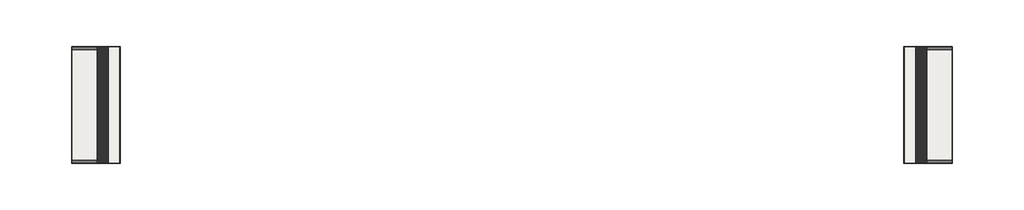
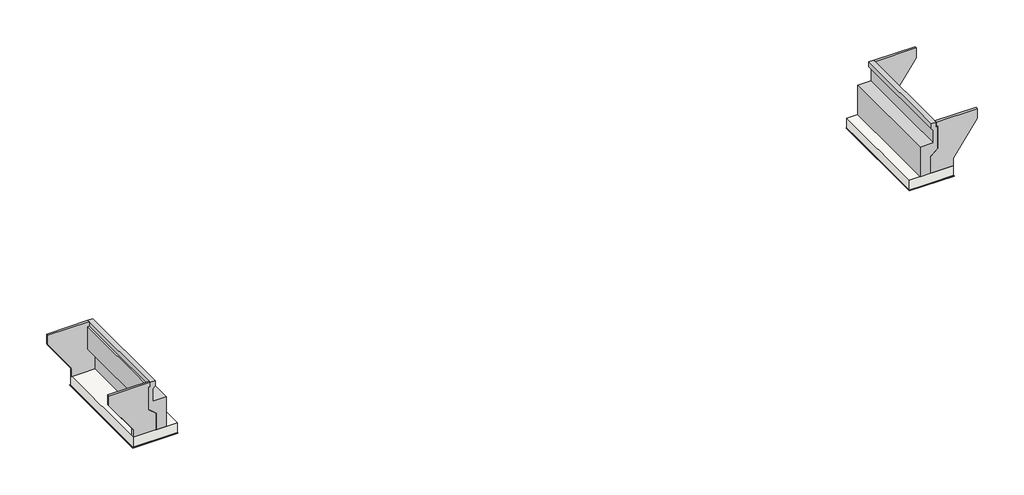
# One storey: 4 slabs, 2 columns, 2 proxies.
"""IFC4 building model written with IfcOpenShell, lengths in millimetres."""

from ifc_helpers import new_model, si_unit, frame, origin, place, context, project, spatial, polyline, outline, extrude, transform, mapped, element, save
from components import generic_models_ccaa3bc6, generic_models_ce1fa7ab, column_4557d2d2

model = new_model("IFC4")

# Units and contexts
model_context = context("Model", 3, world=origin())
ifc_project = project(units=[si_unit("LENGTHUNIT", "METRE", prefix="MILLI")], contexts=[model_context])

# Site, building, storey
site = spatial("IfcSite", under=ifc_project)
building = spatial("IfcBuilding", under=site)
storey = spatial("IfcBuildingStorey", under=building, Name="교대기초레벨", Elevation=5000.0)

# Proxies
placement = place(None, origin())
generic_models_shape = generic_models_ccaa3bc6(model_context)
element("IfcBuildingElementProxy", 1, Name="날개벽 : 날개벽", ObjectType="날개벽 : 날개벽", at=placement, inside=storey, context=model_context, shape_type="MappedRepresentation", body=[
    mapped(generic_models_shape, transform((0.0, 0.0, 0.0), x_axis=(1.0, 0.0, 0.0), y_axis=(0.0, 1.0, 0.0), z_axis=(0.0, 0.0, 1.0))),
])
generic_models_2_shape = generic_models_ce1fa7ab(model_context)
element("IfcBuildingElementProxy", 2, Name="날개벽 2 : 날개벽 2", ObjectType="날개벽 2 : 날개벽 2", at=placement, inside=storey, context=model_context, shape_type="MappedRepresentation", body=[
    mapped(generic_models_2_shape, transform((0.0, 0.0, 0.0), x_axis=(1.0, 0.0, 0.0), y_axis=(0.0, 1.0, 0.0), z_axis=(0.0, 0.0, 1.0))),
])

# Columns
column_shape = column_4557d2d2(model_context)
element("IfcColumn", 3, ObjectType="교대 본체 : 교대 본체", at=placement, inside=storey, context=model_context, shape_type="MappedRepresentation", body=[
    mapped(column_shape, transform((-10580.366559, 448.8136521, 0.0), x_axis=(0.0, -1.0, 0.0), y_axis=(1.0, 0.0, 0.0), z_axis=(0.0, 0.0, 1.0))),
])
element("IfcColumn", 4, ObjectType="교대 본체 : 교대 본체", at=placement, inside=storey, context=model_context, shape_type="MappedRepresentation", body=[
    mapped(column_shape, transform((137019.633441, 448.8136521, 0.0), x_axis=(0.0, 1.0, 0.0), y_axis=(-1.0, 0.0, 0.0), z_axis=(0.0, 0.0, 1.0))),
])

# Slabs
element("IfcSlab", 5, ObjectType="교대 기초 : 교대 기초", at=placement, inside=storey, context=model_context, shape_type="SweptSolid", body=[
    extrude(outline(polyline([(-7530.366559, 10898.8136521), (-7530.366559, -10001.1863479), (-16030.366559, -10001.1863479), (-16030.366559, 10898.8136521), (-7530.366559, 10898.8136521)])), frame((0.0, 0.0, 3000.0), z_axis=(0.0, 0.0, 1.0), x_axis=(1.0, 0.0, 0.0)), (0.0, 0.0, 1.0), 2000.0),
])
element("IfcSlab", 6, ObjectType="교대 버림콘크리트 : 교대 버림콘크리트", at=placement, inside=storey, context=model_context, shape_type="SweptSolid", body=[
    extrude(outline(polyline([(-7430.366559, 10998.8136521), (-7430.366559, -10101.1863479), (-16130.366559, -10101.1863479), (-16130.366559, 10998.8136521), (-7430.366559, 10998.8136521)])), frame((0.0, 0.0, 2900.0), z_axis=(0.0, 0.0, 1.0), x_axis=(1.0, 0.0, 0.0)), (0.0, 0.0, 1.0), 100.0),
])
element("IfcSlab", 7, ObjectType="교대 기초 : 교대 기초", at=placement, inside=storey, context=model_context, shape_type="SweptSolid", body=[
    extrude(outline(polyline([(133969.633441, -10001.1863479), (133969.633441, 10898.8136521), (142469.633441, 10898.8136521), (142469.633441, -10001.1863479), (133969.633441, -10001.1863479)])), frame((0.0, 0.0, 3000.0), z_axis=(0.0, 0.0, 1.0), x_axis=(1.0, 0.0, 0.0)), (0.0, 0.0, 1.0), 2000.0),
])
element("IfcSlab", 8, ObjectType="교대 버림콘크리트 : 교대 버림콘크리트", at=placement, inside=storey, context=model_context, shape_type="SweptSolid", body=[
    extrude(outline(polyline([(133869.633441, -10101.1863479), (133869.633441, 10998.8136521), (142569.633441, 10998.8136521), (142569.633441, -10101.1863479), (133869.633441, -10101.1863479)])), frame((0.0, 0.0, 2900.0), z_axis=(0.0, 0.0, 1.0), x_axis=(1.0, 0.0, 0.0)), (0.0, 0.0, 1.0), 100.0),
])

save(model, "model.ifc")
